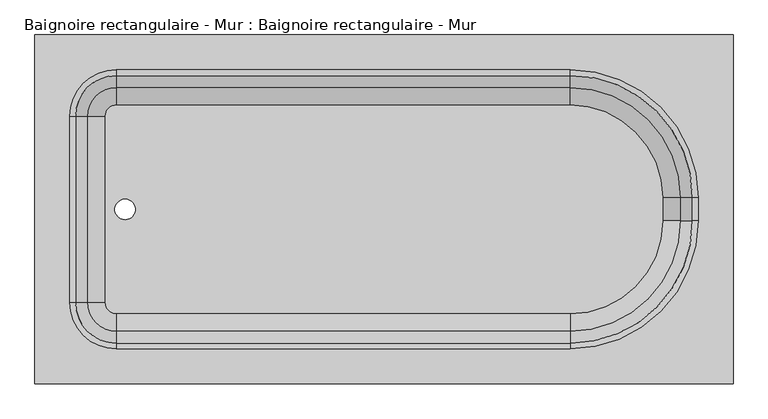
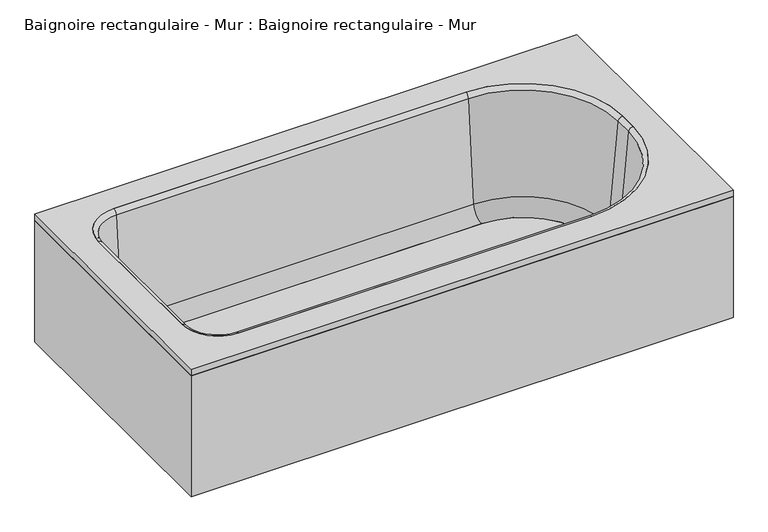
"""IFC4 building model written with IfcOpenShell, lengths in millimetres: flow terminal geometry, Baignoire rectangulaire - Mur : Baignoire rectangulaire - Mur."""

from ifc_helpers import new_model, si_unit, point, frame, frame_2d, origin, origin_with_axes, place, context, project, spatial, polyline, circle_curve, ellipse_curve, trimmed, segment, composite_curve, outline, extrude, source, transform, mapped, element, save
from ifc_brep_helpers import plane_surface, cylinder_surface, revolved_surface, advanced_brep


def baignoire_rectangulaire_mur_baignoire_rectangulaire_mur_f2afccf1(model_context):
    return source(origin(), model_context, "Body", "SolidModel", [
        advanced_brep(
        [(-995.7544608, 759.2, 69.6929392), (-932.8029687, 822.1514921, 69.6929392), (-932.8029687, 848.3220035, 368.8232535), (-1021.9249722, 759.2, 368.8232535), (-957.7994428, 759.2, 34.913573), (-932.8029687, 784.1964741, 34.913573), (-957.7994428, 759.2, 15.863573), (-932.8029687, 784.1964741, 15.863573), (-1034.4029687, 759.2, 15.863573), (-932.8029687, 860.8, 15.863573), (-1034.4029687, 759.2, 380.0), (-932.8029687, 860.8, 380.0), (-1021.9249722, 352.8, 368.8232535), (-995.7544608, 352.8, 69.6929392), (-957.7994428, 352.8, 34.913573), (-957.7994428, 352.8, 15.863573), (-1034.4029687, 352.8, 15.863573), (-1034.4029687, 352.8, 380.0), (-932.8029687, 289.8485079, 69.6929392), (-932.8029687, 263.6779965, 368.8232535), (-932.8029687, 327.8035259, 34.913573), (-932.8029687, 327.8035259, 15.863573), (-932.8029687, 251.2, 15.863573), (-932.8029687, 251.2, 380.0), (58.7970313, 263.6779965, 368.8232535), (58.7970313, 289.8485079, 69.6929392), (58.7970313, 327.8035259, 34.913573), (58.7970313, 327.8035259, 15.863573), (58.7970313, 251.2, 15.863573), (58.7970313, 251.2, 380.0), (299.5485234, 530.6, 69.6929392), (325.7190348, 530.6, 368.8232535), (261.5935054, 530.6, 34.913573), (261.5935054, 530.6, 15.863573), (338.1970313, 530.6, 15.863573), (338.1970313, 530.6, 380.0), (325.7190348, 581.4, 368.8232535), (299.5485234, 581.4, 69.6929392), (261.5935054, 581.4, 34.913573), (261.5935054, 581.4, 15.863573), (338.1970313, 581.4, 15.863573), (338.1970313, 581.4, 380.0), (58.7970313, 822.1514921, 69.6929392), (58.7970313, 848.3220035, 368.8232535), (58.7970313, 784.1964741, 34.913573), (58.7970313, 784.1964741, 15.863573), (58.7970313, 860.8, 15.863573), (58.7970313, 860.8, 380.0)],
        [
            (0, 1, circle_curve(frame((-932.8029687, 759.2, 69.6929392), z_axis=(0.0, 0.0, -1.0), x_axis=(0.0, 1.0, 0.0)), 62.9514921)),
            (1, 2),
            (2, 3, circle_curve(frame((-932.8029687, 759.2, 368.8232535), z_axis=(0.0, 0.0, 1.0), x_axis=(0.0, 1.0, 0.0)), 89.1220035)),
            (3, 0),
            (4, 5, circle_curve(frame((-932.8029687, 759.2, 34.913573), z_axis=(0.0, 0.0, -1.0), x_axis=(0.0, 1.0, 0.0)), 24.9964741)),
            (5, 1, circle_curve(frame((-932.8029687, 784.1964741, 73.013573), z_axis=(1.0, 0.0, 0.0), x_axis=(0.0, -1.0, 0.0)), 38.1)),
            (0, 4, circle_curve(frame((-957.7994428, 759.2, 73.013573), z_axis=(0.0, -1.0, 0.0), x_axis=(1.0, 0.0, 0.0)), 38.1)),
            (6, 7, circle_curve(frame((-932.8029687, 759.2, 15.863573), z_axis=(0.0, 0.0, -1.0), x_axis=(0.0, 1.0, 0.0)), 24.9964741)),
            (7, 5),
            (4, 6),
            (8, 9, circle_curve(frame((-932.8029687, 759.2, 15.863573), z_axis=(0.0, 0.0, -1.0), x_axis=(0.0, 1.0, 0.0)), 101.6)),
            (9, 7),
            (6, 8),
            (10, 11, circle_curve(frame((-932.8029687, 759.2, 380.0), z_axis=(0.0, 0.0, -1.0), x_axis=(0.0, 1.0, 0.0)), 101.6)),
            (11, 9),
            (8, 10),
            (2, 11, circle_curve(frame((-932.8029687, 860.8, 367.4462547), z_axis=(-1.0, 0.0, 0.0), x_axis=(0.0, -1.0, 0.0)), 12.5537453)),
            (10, 3, circle_curve(frame((-1034.4029687, 759.2, 367.4462547), z_axis=(0.0, 1.0, 0.0), x_axis=(1.0, 0.0, 0.0)), 12.5537453)),
            (3, 12),
            (12, 13),
            (13, 0),
            (13, 14, circle_curve(frame((-957.7994428, 352.8, 73.013573), z_axis=(0.0, -1.0, 0.0), x_axis=(1.0, 0.0, 0.0)), 38.1)),
            (14, 4),
            (14, 15),
            (15, 6),
            (15, 16),
            (16, 8),
            (16, 17),
            (17, 10),
            (17, 12, circle_curve(frame((-1034.4029687, 352.8, 367.4462547), z_axis=(0.0, 1.0, 0.0), x_axis=(1.0, 0.0, 0.0)), 12.5537453)),
            (18, 13, circle_curve(frame((-932.8029687, 352.8, 69.6929392), z_axis=(0.0, 0.0, -1.0), x_axis=(-1.0, 0.0, 0.0)), 62.9514921)),
            (12, 19, circle_curve(frame((-932.8029687, 352.8, 368.8232535), z_axis=(0.0, 0.0, 1.0), x_axis=(-1.0, 0.0, 0.0)), 89.1220035)),
            (19, 18),
            (20, 14, circle_curve(frame((-932.8029687, 352.8, 34.913573), z_axis=(0.0, 0.0, -1.0), x_axis=(-1.0, 0.0, 0.0)), 24.9964741)),
            (18, 20, circle_curve(frame((-932.8029687, 327.8035259, 73.013573), z_axis=(1.0, 0.0, 0.0), x_axis=(0.0, 1.0, 0.0)), 38.1)),
            (21, 15, circle_curve(frame((-932.8029687, 352.8, 15.863573), z_axis=(0.0, 0.0, -1.0), x_axis=(-1.0, 0.0, 0.0)), 24.9964741)),
            (20, 21),
            (22, 16, circle_curve(frame((-932.8029687, 352.8, 15.863573), z_axis=(0.0, 0.0, -1.0), x_axis=(-1.0, 0.0, 0.0)), 101.6)),
            (21, 22),
            (23, 17, circle_curve(frame((-932.8029687, 352.8, 380.0), z_axis=(0.0, 0.0, -1.0), x_axis=(-1.0, 0.0, 0.0)), 101.6)),
            (22, 23),
            (23, 19, circle_curve(frame((-932.8029687, 251.2, 367.4462547), z_axis=(-1.0, 0.0, 0.0), x_axis=(0.0, 1.0, 0.0)), 12.5537453)),
            (19, 24),
            (24, 25),
            (25, 18),
            (25, 26, circle_curve(frame((58.7970313, 327.8035259, 73.013573), z_axis=(1.0, 0.0, 0.0), x_axis=(0.0, 1.0, 0.0)), 38.1)),
            (26, 20),
            (26, 27),
            (27, 21),
            (27, 28),
            (28, 22),
            (28, 29),
            (29, 23),
            (29, 24, circle_curve(frame((58.7970313, 251.2, 367.4462547), z_axis=(-1.0, 0.0, 0.0), x_axis=(0.0, 1.0, 0.0)), 12.5537453)),
            (30, 25, circle_curve(frame((58.7970313, 530.6, 69.6929392), z_axis=(0.0, 0.0, -1.0), x_axis=(0.0, -1.0, 0.0)), 240.7514921)),
            (24, 31, circle_curve(frame((58.7970313, 530.6, 368.8232535), z_axis=(0.0, 0.0, 1.0), x_axis=(0.0, -1.0, 0.0)), 266.9220035)),
            (31, 30),
            (32, 26, circle_curve(frame((58.7970313, 530.6, 34.913573), z_axis=(0.0, 0.0, -1.0), x_axis=(0.0, -1.0, 0.0)), 202.7964741)),
            (30, 32, circle_curve(frame((261.5935054, 530.6, 73.013573), z_axis=(0.0, 1.0, 0.0), x_axis=(-1.0, 0.0, 0.0)), 38.1)),
            (33, 27, circle_curve(frame((58.7970313, 530.6, 15.863573), z_axis=(0.0, 0.0, -1.0), x_axis=(0.0, -1.0, 0.0)), 202.7964741)),
            (32, 33),
            (34, 28, circle_curve(frame((58.7970313, 530.6, 15.863573), z_axis=(0.0, 0.0, -1.0), x_axis=(0.0, -1.0, 0.0)), 279.4)),
            (33, 34),
            (35, 29, circle_curve(frame((58.7970313, 530.6, 380.0), z_axis=(0.0, 0.0, -1.0), x_axis=(0.0, -1.0, 0.0)), 279.4)),
            (34, 35),
            (35, 31, circle_curve(frame((338.1970313, 530.6, 367.4462547), z_axis=(0.0, -1.0, 0.0), x_axis=(-1.0, 0.0, 0.0)), 12.5537453)),
            (31, 36),
            (36, 37),
            (37, 30),
            (37, 38, circle_curve(frame((261.5935054, 581.4, 73.013573), z_axis=(0.0, 1.0, 0.0), x_axis=(-1.0, 0.0, 0.0)), 38.1)),
            (38, 32),
            (38, 39),
            (39, 33),
            (39, 40),
            (40, 34),
            (40, 41),
            (41, 35),
            (41, 36, circle_curve(frame((338.1970313, 581.4, 367.4462547), z_axis=(0.0, -1.0, 0.0), x_axis=(-1.0, 0.0, 0.0)), 12.5537453)),
            (42, 37, circle_curve(frame((58.7970313, 581.4, 69.6929392), z_axis=(0.0, 0.0, -1.0), x_axis=(1.0, 0.0, 0.0)), 240.7514921)),
            (36, 43, circle_curve(frame((58.7970313, 581.4, 368.8232535), z_axis=(0.0, 0.0, 1.0), x_axis=(1.0, 0.0, 0.0)), 266.9220035)),
            (43, 42),
            (44, 38, circle_curve(frame((58.7970313, 581.4, 34.913573), z_axis=(0.0, 0.0, -1.0), x_axis=(1.0, 0.0, 0.0)), 202.7964741)),
            (42, 44, circle_curve(frame((58.7970313, 784.1964741, 73.013573), z_axis=(-1.0, 0.0, 0.0), x_axis=(0.0, -1.0, 0.0)), 38.1)),
            (45, 39, circle_curve(frame((58.7970313, 581.4, 15.863573), z_axis=(0.0, 0.0, -1.0), x_axis=(1.0, 0.0, 0.0)), 202.7964741)),
            (44, 45),
            (46, 40, circle_curve(frame((58.7970313, 581.4, 15.863573), z_axis=(0.0, 0.0, -1.0), x_axis=(1.0, 0.0, 0.0)), 279.4)),
            (45, 46),
            (47, 41, circle_curve(frame((58.7970313, 581.4, 380.0), z_axis=(0.0, 0.0, -1.0), x_axis=(1.0, 0.0, 0.0)), 279.4)),
            (46, 47),
            (47, 43, circle_curve(frame((58.7970313, 860.8, 367.4462547), z_axis=(1.0, 0.0, 0.0), x_axis=(0.0, -1.0, 0.0)), 12.5537453)),
            (43, 2),
            (1, 42),
            (5, 44),
            (7, 45),
            (9, 46),
            (11, 47),
        ],
        [
            revolved_surface(polyline([(-932.8029687, 848.3220035, 368.8232535), (-932.8029687, 822.1514921, 69.6929392)]), (-932.8029687, 759.2, 380.0), (0.0, 0.0, 1.0)),
            revolved_surface(trimmed(ellipse_curve(frame((-932.8029687, 784.1964741, 73.013573), z_axis=(-1.0, 0.0, 0.0), x_axis=(0.0, -1.0, 0.0)), 38.1, 38.1), [point((-932.8029687, 822.1514921, 69.6929392))], [point((-932.8029687, 784.1964741, 34.913573))], True, "CARTESIAN"), (-932.8029687, 759.2, 380.0), (0.0, 0.0, 1.0)),
            revolved_surface(polyline([(-932.8029687, 784.1964741, 34.913572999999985), (-932.8029687, 784.1964741, 15.863572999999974)]), (-932.8029687, 759.2, 380.0), (0.0, 0.0, 1.0)),
            plane_surface(frame((-932.8029687, 759.2, 15.863573), z_axis=(0.0, 0.0, -1.0), x_axis=(0.0, 1.0, 0.0))),
            cylinder_surface(frame((-932.8029687, 759.2, 380.0), z_axis=(0.0, 0.0, 1.0), x_axis=(0.0, 1.0, 0.0)), 101.6),
            revolved_surface(trimmed(ellipse_curve(frame((-932.8029687, 860.8, 367.4462547), z_axis=(1.0, 0.0, 0.0), x_axis=(0.0, -1.0, 0.0)), 12.5537453, 12.5537453), [point((-932.8029687, 860.8, 380.0))], [point((-932.8029687, 848.3220035, 368.8232535))], True, "CARTESIAN"), (-932.8029687, 759.2, 380.0), (0.0, 0.0, 1.0)),
            plane_surface(frame((-1021.9249722, 759.2, 368.8232535), z_axis=(0.9961946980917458, 0.0, 0.08715574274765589), x_axis=(0.0, -1.0, 0.0))),
            revolved_surface(polyline([(-919.6994427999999, 352.8, 73.013573), (-919.6994427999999, 759.2, 73.013573)]), (-957.7994428, 759.2, 73.013573), (0.0, -1.0, 0.0)),
            plane_surface(frame((-957.7994428, 759.2, 34.913573), z_axis=(1.0, 0.0, 0.0), x_axis=(0.0, -1.0, 0.0))),
            plane_surface(frame((-957.7994428, 759.2, 15.863573), z_axis=(0.0, 0.0, -1.0), x_axis=(0.0, -1.0, 0.0))),
            plane_surface(frame((-1034.4029687, 759.2, 15.863573), z_axis=(-1.0, 0.0, 0.0), x_axis=(0.0, -1.0, 0.0))),
            cylinder_surface(frame((-1034.4029687, 759.2, 367.4462547), z_axis=(0.0, 1.0, 0.0), x_axis=(1.0, 0.0, 0.0)), 12.5537453),
            revolved_surface(polyline([(-1021.9249722, 352.8, 368.8232535), (-995.7544608, 352.8, 69.6929392)]), (-932.8029687, 352.8, 380.0), (0.0, 0.0, 1.0)),
            revolved_surface(trimmed(ellipse_curve(frame((-957.7994428, 352.8, 73.013573), z_axis=(0.0, -1.0, 0.0), x_axis=(1.0, 0.0, 0.0)), 38.1, 38.1), [point((-995.7544608, 352.8, 69.6929392))], [point((-957.7994428, 352.8, 34.913573))], True, "CARTESIAN"), (-932.8029687, 352.8, 380.0), (0.0, 0.0, 1.0)),
            revolved_surface(polyline([(-957.7994428, 352.8, 34.913572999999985), (-957.7994428, 352.8, 15.863572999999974)]), (-932.8029687, 352.8, 380.0), (0.0, 0.0, 1.0)),
            plane_surface(frame((-932.8029687, 352.8, 15.863573), z_axis=(0.0, 0.0, -1.0), x_axis=(-1.0, 0.0, 0.0))),
            cylinder_surface(frame((-932.8029687, 352.8, 380.0), z_axis=(0.0, 0.0, 1.0), x_axis=(-1.0, 0.0, 0.0)), 101.6),
            revolved_surface(trimmed(ellipse_curve(frame((-1034.4029687, 352.8, 367.4462547), z_axis=(0.0, 1.0, 0.0), x_axis=(1.0, 0.0, 0.0)), 12.5537453, 12.5537453), [point((-1034.4029687, 352.8, 380.0))], [point((-1021.9249722, 352.8, 368.8232535))], True, "CARTESIAN"), (-932.8029687, 352.8, 380.0), (0.0, 0.0, 1.0)),
            plane_surface(frame((-932.8029687, 263.6779965, 368.8232535), z_axis=(0.0, 0.9961946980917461, 0.08715574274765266), x_axis=(1.0, 0.0, 0.0))),
            revolved_surface(polyline([(58.79703129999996, 365.90352590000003, 73.013573), (-932.8029687, 365.90352590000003, 73.013573)]), (-932.8029687, 327.8035259, 73.013573), (1.0, 0.0, 0.0)),
            plane_surface(frame((-932.8029687, 327.8035259, 34.913573), z_axis=(0.0, 1.0, 0.0), x_axis=(1.0, 0.0, 0.0))),
            plane_surface(frame((-932.8029687, 327.8035259, 15.863573), z_axis=(0.0, 0.0, -1.0), x_axis=(1.0, 0.0, 0.0))),
            plane_surface(frame((-932.8029687, 251.2, 15.863573), z_axis=(0.0, -1.0, 0.0), x_axis=(1.0, 0.0, 0.0))),
            cylinder_surface(frame((-932.8029687, 251.2, 367.4462547), z_axis=(-1.0, 0.0, 0.0), x_axis=(0.0, 1.0, 0.0)), 12.5537453),
            revolved_surface(polyline([(58.7970313, 263.6779965, 368.8232535), (58.7970313, 289.8485079, 69.6929392)]), (58.7970313, 530.6, 380.0), (0.0, 0.0, 1.0)),
            revolved_surface(trimmed(ellipse_curve(frame((58.7970313, 327.8035259, 73.013573), z_axis=(1.0, 0.0, 0.0), x_axis=(0.0, 1.0, 0.0)), 38.1, 38.1), [point((58.7970313, 289.8485079, 69.6929392))], [point((58.7970313, 327.8035259, 34.913573))], True, "CARTESIAN"), (58.7970313, 530.6, 380.0), (0.0, 0.0, 1.0)),
            revolved_surface(polyline([(58.7970313, 327.8035259, 34.913572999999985), (58.7970313, 327.8035259, 15.863572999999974)]), (58.7970313, 530.6, 380.0), (0.0, 0.0, 1.0)),
            plane_surface(frame((58.7970313, 530.6, 15.863573), z_axis=(0.0, 0.0, -1.0), x_axis=(0.0, -1.0, 0.0))),
            cylinder_surface(frame((58.7970313, 530.6, 380.0), z_axis=(0.0, 0.0, 1.0), x_axis=(0.0, -1.0, 0.0)), 279.4),
            revolved_surface(trimmed(ellipse_curve(frame((58.7970313, 251.2, 367.4462547), z_axis=(-1.0, 0.0, 0.0), x_axis=(0.0, 1.0, 0.0)), 12.5537453, 12.5537453), [point((58.7970313, 251.2, 380.0))], [point((58.7970313, 263.6779965, 368.8232535))], True, "CARTESIAN"), (58.7970313, 530.6, 380.0), (0.0, 0.0, 1.0)),
            plane_surface(frame((325.7190348, 530.6, 368.8232535), z_axis=(-0.9961946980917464, 0.0, 0.08715574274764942), x_axis=(0.0, 1.0, 0.0))),
            revolved_surface(polyline([(223.49350540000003, 581.4, 73.013573), (223.49350540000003, 530.6, 73.013573)]), (261.5935054, 530.6, 73.013573), (0.0, 1.0, 0.0)),
            plane_surface(frame((261.5935054, 530.6, 34.913573), z_axis=(-1.0, 0.0, 0.0), x_axis=(0.0, 1.0, 0.0))),
            plane_surface(frame((261.5935054, 530.6, 15.863573), z_axis=(0.0, 0.0, -1.0), x_axis=(0.0, 1.0, 0.0))),
            plane_surface(frame((338.1970313, 530.6, 15.863573), z_axis=(1.0, 0.0, 0.0), x_axis=(0.0, 1.0, 0.0))),
            cylinder_surface(frame((338.1970313, 530.6, 367.4462547), z_axis=(0.0, -1.0, 0.0), x_axis=(-1.0, 0.0, 0.0)), 12.5537453),
            revolved_surface(polyline([(325.7190348, 581.4, 368.8232535), (299.5485234, 581.4, 69.6929392)]), (58.7970313, 581.4, 380.0), (0.0, 0.0, 1.0)),
            revolved_surface(trimmed(ellipse_curve(frame((261.5935054, 581.4, 73.013573), z_axis=(0.0, 1.0, 0.0), x_axis=(-1.0, 0.0, 0.0)), 38.1, 38.1), [point((299.5485234, 581.4, 69.6929392))], [point((261.5935054, 581.4, 34.913573))], True, "CARTESIAN"), (58.7970313, 581.4, 380.0), (0.0, 0.0, 1.0)),
            revolved_surface(polyline([(261.5935054, 581.4, 34.913572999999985), (261.5935054, 581.4, 15.863572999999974)]), (58.7970313, 581.4, 380.0), (0.0, 0.0, 1.0)),
            plane_surface(frame((58.7970313, 581.4, 15.863573), z_axis=(0.0, 0.0, -1.0), x_axis=(1.0, 0.0, 0.0))),
            cylinder_surface(frame((58.7970313, 581.4, 380.0), z_axis=(0.0, 0.0, 1.0), x_axis=(1.0, 0.0, 0.0)), 279.4),
            revolved_surface(trimmed(ellipse_curve(frame((338.1970313, 581.4, 367.4462547), z_axis=(0.0, -1.0, 0.0), x_axis=(-1.0, 0.0, 0.0)), 12.5537453, 12.5537453), [point((338.1970313, 581.4, 380.0))], [point((325.7190348, 581.4, 368.8232535))], True, "CARTESIAN"), (58.7970313, 581.4, 380.0), (0.0, 0.0, 1.0)),
            plane_surface(frame((58.7970313, 848.3220035, 368.8232535), z_axis=(0.0, -0.9961946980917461, 0.08715574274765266), x_axis=(-1.0, 0.0, 0.0))),
            revolved_surface(polyline([(-932.8029687, 746.0964741, 73.013573), (58.7970313, 746.0964741, 73.013573)]), (58.7970313, 784.1964741, 73.013573), (-1.0, 0.0, 0.0)),
            plane_surface(frame((58.7970313, 784.1964741, 34.913573), z_axis=(0.0, -1.0, 0.0), x_axis=(-1.0, 0.0, 0.0))),
            plane_surface(frame((58.7970313, 784.1964741, 15.863573), z_axis=(0.0, 0.0, -1.0), x_axis=(-1.0, 0.0, 0.0))),
            plane_surface(frame((58.7970313, 860.8, 15.863573), z_axis=(0.0, 1.0, 0.0), x_axis=(-1.0, 0.0, 0.0))),
            cylinder_surface(frame((58.7970313, 860.8, 367.4462547), z_axis=(1.0, 0.0, 0.0), x_axis=(0.0, -1.0, 0.0)), 12.5537453),
        ],
        [
            (0, [[1, 2, 3, 4]]),
            (1, [[5, 6, -1, 7]]),
            (2, [[8, 9, -5, 10]]),
            (3, [[11, 12, -8, 13]]),
            (4, [[14, 15, -11, 16]]),
            (5, [[-3, 17, -14, 18]]),
            (6, [[-4, 19, 20, 21]]),
            (7, [[-7, -21, 22, 23]]),
            (8, [[-10, -23, 24, 25]]),
            (9, [[-13, -25, 26, 27]]),
            (10, [[-16, -27, 28, 29]]),
            (11, [[-18, -29, 30, -19]]),
            (12, [[31, -20, 32, 33]]),
            (13, [[34, -22, -31, 35]]),
            (14, [[36, -24, -34, 37]]),
            (15, [[38, -26, -36, 39]]),
            (16, [[40, -28, -38, 41]]),
            (17, [[-32, -30, -40, 42]]),
            (18, [[-33, 43, 44, 45]]),
            (19, [[-35, -45, 46, 47]]),
            (20, [[-37, -47, 48, 49]]),
            (21, [[-39, -49, 50, 51]]),
            (22, [[-41, -51, 52, 53]]),
            (23, [[-42, -53, 54, -43]]),
            (24, [[55, -44, 56, 57]]),
            (25, [[58, -46, -55, 59]]),
            (26, [[60, -48, -58, 61]]),
            (27, [[62, -50, -60, 63]]),
            (28, [[64, -52, -62, 65]]),
            (29, [[-56, -54, -64, 66]]),
            (30, [[-57, 67, 68, 69]]),
            (31, [[-59, -69, 70, 71]]),
            (32, [[-61, -71, 72, 73]]),
            (33, [[-63, -73, 74, 75]]),
            (34, [[-65, -75, 76, 77]]),
            (35, [[-66, -77, 78, -67]]),
            (36, [[79, -68, 80, 81]]),
            (37, [[82, -70, -79, 83]]),
            (38, [[84, -72, -82, 85]]),
            (39, [[86, -74, -84, 87]]),
            (40, [[88, -76, -86, 89]]),
            (41, [[-80, -78, -88, 90]]),
            (42, [[-81, 91, -2, 92]]),
            (43, [[-83, -92, -6, 93]]),
            (44, [[-85, -93, -9, 94]]),
            (45, [[-87, -94, -12, 95]]),
            (46, [[-89, -95, -15, 96]]),
            (47, [[-90, -96, -17, -91]]),
        ],
    ),
        extrude(outline(composite_curve([segment(trimmed(circle_curve(frame_2d((58.7970313, 581.4)), 202.7964741), [point((58.7970313, 784.1964741))], [point((261.5935054, 581.4))], False, "CARTESIAN"), True, "CONTINUOUS"), segment(polyline([(261.5935054, 581.4), (261.5935054, 530.6)]), True, "CONTINUOUS"), segment(trimmed(circle_curve(frame_2d((58.7970313, 530.6)), 202.7964741), [point((261.5935054, 530.6))], [point((58.7970313, 327.8035259))], False, "CARTESIAN"), True, "CONTINUOUS"), segment(polyline([(58.7970313, 327.8035259), (-932.8029687, 327.8035259)]), True, "CONTINUOUS"), segment(trimmed(circle_curve(frame_2d((-932.8029687, 352.8)), 24.9964741), [point((-932.8029687, 327.8035259))], [point((-957.7994428, 352.8))], False, "CARTESIAN"), True, "CONTINUOUS"), segment(polyline([(-957.7994428, 352.8), (-957.7994428, 759.2)]), True, "CONTINUOUS"), segment(trimmed(circle_curve(frame_2d((-932.8029687, 759.2)), 24.9964741), [point((-957.7994428, 759.2))], [point((-932.8029687, 784.1964741))], False, "CARTESIAN"), True, "CONTINUOUS"), segment(polyline([(-932.8029687, 784.1964741), (58.7970313, 784.1964741)]), True, "CONTINUOUS")], self_intersect=False), holes=[composite_curve([segment(trimmed(circle_curve(frame_2d((-913.5971625, 556.0)), 22.225), [point((-913.5971625, 578.225))], [point((-913.5971625, 533.775))], True, "CARTESIAN"), True, "CONTINUOUS"), segment(trimmed(circle_curve(frame_2d((-913.5971625, 556.0)), 22.225), [point((-913.5971625, 533.775))], [point((-913.5971625, 578.225))], True, "CARTESIAN"), True, "CONTINUOUS")], self_intersect=False)]), frame((0.0, 0.0, 15.863573), z_axis=(0.0, 0.0, 1.0), x_axis=(1.0, 0.0, 0.0)), (0.0, 0.0, 1.0), 19.05),
        extrude(outline(polyline([(414.3970313, 937.0), (414.3970313, 175.0), (-1110.6029687, 175.0), (-1110.6029687, 937.0), (414.3970313, 937.0)]), holes=[polyline([(395.3470313, 917.95), (-1091.5529687, 917.95), (-1091.5529687, 194.05), (395.3470313, 194.05), (395.3470313, 917.95)])]), origin_with_axes(), (0.0, 0.0, 1.0), 360.95),
        extrude(outline(polyline([(414.3970313, 937.0), (414.3970313, 175.0), (-1110.6029687, 175.0), (-1110.6029687, 937.0), (414.3970313, 937.0)]), holes=[composite_curve([segment(trimmed(circle_curve(frame_2d((-932.8029687, 759.2)), 101.6), [point((-932.8029687, 860.8))], [point((-1034.4029687, 759.2))], True, "CARTESIAN"), True, "CONTINUOUS"), segment(polyline([(-1034.4029687, 759.2), (-1034.4029687, 352.8)]), True, "CONTINUOUS"), segment(trimmed(circle_curve(frame_2d((-932.8029687, 352.8)), 101.6), [point((-1034.4029687, 352.8))], [point((-932.8029687, 251.2))], True, "CARTESIAN"), True, "CONTINUOUS"), segment(polyline([(-932.8029687, 251.2), (58.7970313, 251.2)]), True, "CONTINUOUS"), segment(trimmed(circle_curve(frame_2d((58.7970313, 530.6)), 279.4), [point((58.7970313, 251.2))], [point((338.1970313, 530.6))], True, "CARTESIAN"), True, "CONTINUOUS"), segment(polyline([(338.1970313, 530.6), (338.1970313, 581.4)]), True, "CONTINUOUS"), segment(trimmed(circle_curve(frame_2d((58.7970313, 581.4)), 279.4), [point((338.1970313, 581.4))], [point((58.7970313, 860.8))], True, "CARTESIAN"), True, "CONTINUOUS"), segment(polyline([(58.7970313, 860.8), (-932.8029687, 860.8)]), True, "CONTINUOUS")], self_intersect=False)]), frame((0.0, 0.0, 360.95), z_axis=(0.0, 0.0, 1.0), x_axis=(1.0, 0.0, 0.0)), (0.0, 0.0, 1.0), 19.05),
    ])


if __name__ == "__main__":
    model = new_model("IFC4")
    model_context = context("Model", 3, world=origin())
    ifc_project = project(units=[si_unit("LENGTHUNIT", "METRE", prefix="MILLI")], contexts=[model_context])
    site = spatial("IfcSite", under=ifc_project)
    building = spatial("IfcBuilding", under=site)
    placement = place(None, origin())
    baignoire_rectangulaire_mur_baignoire_rectangulaire_mur_shape = baignoire_rectangulaire_mur_baignoire_rectangulaire_mur_f2afccf1(model_context)
    element("IfcFlowTerminal", 1, ObjectType="Baignoire rectangulaire - Mur : Baignoire rectangulaire - Mur", at=placement, inside=building, context=model_context, shape_type="MappedRepresentation", body=[
        mapped(baignoire_rectangulaire_mur_baignoire_rectangulaire_mur_shape, transform((0.0, 0.0, 0.0), x_axis=(1.0, 0.0, 0.0), y_axis=(0.0, 1.0, 0.0), z_axis=(0.0, 0.0, 1.0))),
    ])
    save(model, "model.ifc")
